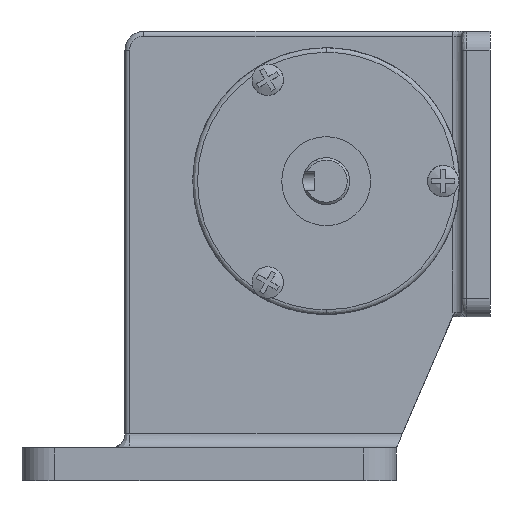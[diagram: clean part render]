
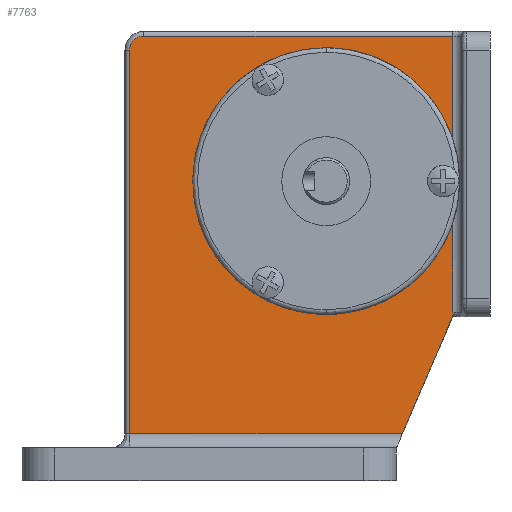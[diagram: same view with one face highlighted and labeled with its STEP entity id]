
A CAD part, left-side view. The second image highlights one B-rep face of the part: STEP entity #7763.
In plain terms, the highlighted planar face has unit normal (-1, 0, 0).
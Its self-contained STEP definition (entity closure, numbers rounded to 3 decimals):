
#127 = CARTESIAN_POINT ( 'NONE',  ( -18., 8., -28. ) ) ;
#182 = EDGE_CURVE ( 'NONE', #5603, #1422, #3901, .T. ) ;
#289 = CARTESIAN_POINT ( 'NONE',  ( -18., 7.67, -28.231 ) ) ;
#315 = DIRECTION ( 'NONE',  ( 1., 0., 0. ) ) ;
#584 = ORIENTED_EDGE ( 'NONE', *, *, #6790, .F. ) ;
#596 = CARTESIAN_POINT ( 'NONE',  ( -18., 75.757, 31. ) ) ;
#704 =( BOUNDED_CURVE ( )  B_SPLINE_CURVE ( 3, ( #4863, #7332, #596, #8146 ),
 .UNSPECIFIED., .F., .F. ) 
 B_SPLINE_CURVE_WITH_KNOTS ( ( 4, 4 ),
 ( 0., 1. ),
 .UNSPECIFIED. ) 
 CURVE ( )  GEOMETRIC_REPRESENTATION_ITEM ( )  RATIONAL_B_SPLINE_CURVE ( ( 0.957, 0.77, 0.77, 0.957 ) ) 
 REPRESENTATION_ITEM ( '' )  );
#905 = CARTESIAN_POINT ( 'NONE',  ( -18., 77., -54. ) ) ;
#909 = ORIENTED_EDGE ( 'NONE', *, *, #4142, .F. ) ;
#1020 = PLANE ( 'NONE',  #2758 ) ;
#1059 = CARTESIAN_POINT ( 'NONE',  ( -18., 7.254, 31. ) ) ;
#1089 = DIRECTION ( 'NONE',  ( 0., 1., 0. ) ) ;
#1422 = VERTEX_POINT ( 'NONE', #6569 ) ;
#1853 = CARTESIAN_POINT ( 'NONE',  ( -18., 77., -11.5 ) ) ;
#1890 = DIRECTION ( 'NONE',  ( 0., 0., 1. ) ) ;
#2065 = B_SPLINE_CURVE_WITH_KNOTS ( 'NONE', 3,
 ( #127, #7856, #4431, #2752 ),
 .UNSPECIFIED., .F., .F.,
 ( 4, 4 ),
 ( 0., 1. ),
 .UNSPECIFIED. ) ;
#2237 = ORIENTED_EDGE ( 'NONE', *, *, #3997, .F. ) ;
#2284 = EDGE_CURVE ( 'NONE', #3141, #5603, #4105, .T. ) ;
#2752 = CARTESIAN_POINT ( 'NONE',  ( -18., 7.67, -28.231 ) ) ;
#2758 = AXIS2_PLACEMENT_3D ( 'NONE', #1059, #4438, #6998 ) ;
#2957 = DIRECTION ( 'NONE',  ( 0., 0., -1. ) ) ;
#3110 = CARTESIAN_POINT ( 'NONE',  ( -18., 20., -57. ) ) ;
#3141 = VERTEX_POINT ( 'NONE', #7736 ) ;
#3261 = DIRECTION ( 'NONE',  ( 0., 0.394, -0.919 ) ) ;
#3422 = LINE ( 'NONE', #3110, #5149 ) ;
#3567 = CARTESIAN_POINT ( 'NONE',  ( -18., 18.714, -54. ) ) ;
#3813 = LINE ( 'NONE', #5416, #10343 ) ;
#3901 = LINE ( 'NONE', #6838, #6289 ) ;
#3922 = ORIENTED_EDGE ( 'NONE', *, *, #182, .F. ) ;
#3981 = LINE ( 'NONE', #4543, #6237 ) ;
#3997 = EDGE_CURVE ( 'NONE', #4383, #5995, #4477, .T. ) ;
#4105 = LINE ( 'NONE', #9173, #11051 ) ;
#4142 = EDGE_CURVE ( 'NONE', #7627, #4938, #3813, .T. ) ;
#4383 = VERTEX_POINT ( 'NONE', #905 ) ;
#4431 = CARTESIAN_POINT ( 'NONE',  ( -18., 7.785, -28.152 ) ) ;
#4438 = DIRECTION ( 'NONE',  ( 1., 0., 0. ) ) ;
#4477 = LINE ( 'NONE', #1853, #6061 ) ;
#4543 = CARTESIAN_POINT ( 'NONE',  ( -18., 42.127, -54. ) ) ;
#4863 = CARTESIAN_POINT ( 'NONE',  ( -18., 77., 28. ) ) ;
#4938 = VERTEX_POINT ( 'NONE', #5202 ) ;
#5027 = AXIS2_PLACEMENT_3D ( 'NONE', #5079, #315, #2957 ) ;
#5079 = CARTESIAN_POINT ( 'NONE',  ( -18., 35., 0. ) ) ;
#5149 = VECTOR ( 'NONE', #3261, 1000. ) ;
#5202 = CARTESIAN_POINT ( 'NONE',  ( -18., 8., -28. ) ) ;
#5416 = CARTESIAN_POINT ( 'NONE',  ( -18., 8., 1.5 ) ) ;
#5603 = VERTEX_POINT ( 'NONE', #9909 ) ;
#5995 = VERTEX_POINT ( 'NONE', #10645 ) ;
#6061 = VECTOR ( 'NONE', #1890, 1000. ) ;
#6237 = VECTOR ( 'NONE', #1089, 1000. ) ;
#6289 = VECTOR ( 'NONE', #8554, 1000. ) ;
#6374 = CIRCLE ( 'NONE', #5027, 28.5 ) ;
#6430 = EDGE_CURVE ( 'NONE', #7627, #1422, #6374, .T. ) ;
#6483 = DIRECTION ( 'NONE',  ( 0., -1., 0. ) ) ;
#6569 = CARTESIAN_POINT ( 'NONE',  ( -18., 8., 9.124 ) ) ;
#6790 = EDGE_CURVE ( 'NONE', #4938, #8689, #2065, .T. ) ;
#6838 = CARTESIAN_POINT ( 'NONE',  ( -18., 8., 1.5 ) ) ;
#6998 = DIRECTION ( 'NONE',  ( 0., 0., -1. ) ) ;
#7332 = CARTESIAN_POINT ( 'NONE',  ( -18., 77., 29.757 ) ) ;
#7600 = ORIENTED_EDGE ( 'NONE', *, *, #10849, .F. ) ;
#7627 = VERTEX_POINT ( 'NONE', #9986 ) ;
#7736 = CARTESIAN_POINT ( 'NONE',  ( -18., 74., 31. ) ) ;
#7763 = ADVANCED_FACE ( 'NONE', ( #9144 ), #1020, .F. ) ;
#7856 = CARTESIAN_POINT ( 'NONE',  ( -18., 7.894, -28.074 ) ) ;
#7994 = EDGE_CURVE ( 'NONE', #5995, #3141, #704, .T. ) ;
#8133 = DIRECTION ( 'NONE',  ( 0., 0., -1. ) ) ;
#8146 = CARTESIAN_POINT ( 'NONE',  ( -18., 74., 31. ) ) ;
#8219 = VERTEX_POINT ( 'NONE', #3567 ) ;
#8327 = EDGE_CURVE ( 'NONE', #8689, #8219, #3422, .T. ) ;
#8554 = DIRECTION ( 'NONE',  ( 0., 0., -1. ) ) ;
#8689 = VERTEX_POINT ( 'NONE', #289 ) ;
#8837 = ORIENTED_EDGE ( 'NONE', *, *, #8327, .F. ) ;
#9057 = ORIENTED_EDGE ( 'NONE', *, *, #6430, .T. ) ;
#9144 = FACE_OUTER_BOUND ( 'NONE', #10663, .T. ) ;
#9147 = ORIENTED_EDGE ( 'NONE', *, *, #7994, .F. ) ;
#9173 = CARTESIAN_POINT ( 'NONE',  ( -18., 42.127, 31. ) ) ;
#9909 = CARTESIAN_POINT ( 'NONE',  ( -18., 8., 31. ) ) ;
#9986 = CARTESIAN_POINT ( 'NONE',  ( -18., 8., -9.124 ) ) ;
#10343 = VECTOR ( 'NONE', #8133, 1000. ) ;
#10645 = CARTESIAN_POINT ( 'NONE',  ( -18., 77., 28. ) ) ;
#10663 = EDGE_LOOP ( 'NONE', ( #7600, #8837, #584, #909, #9057, #3922, #10860, #9147, #2237 ) ) ;
#10849 = EDGE_CURVE ( 'NONE', #8219, #4383, #3981, .T. ) ;
#10860 = ORIENTED_EDGE ( 'NONE', *, *, #2284, .F. ) ;
#11051 = VECTOR ( 'NONE', #6483, 1000. ) ;
